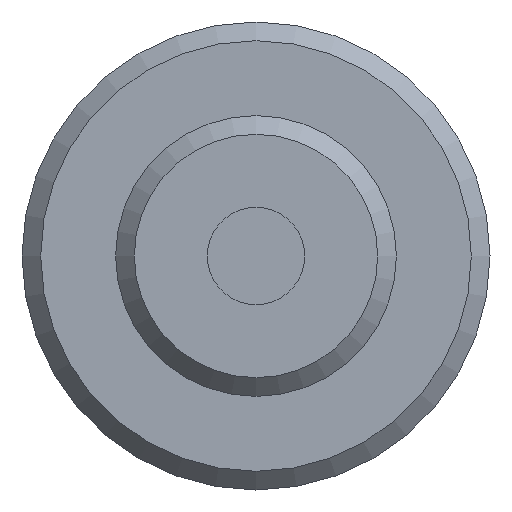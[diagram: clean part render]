
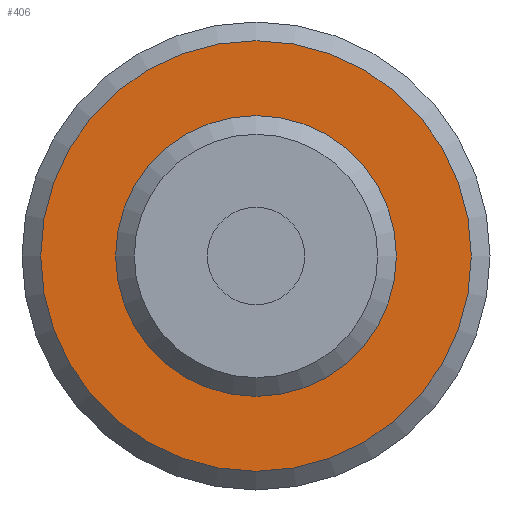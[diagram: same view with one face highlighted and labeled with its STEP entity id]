
A CAD part, front view. The second image highlights one B-rep face of the part: STEP entity #406.
In plain terms, the highlighted planar face has unit normal (0, -1, 0).
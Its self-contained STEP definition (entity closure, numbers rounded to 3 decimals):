
#31=FACE_BOUND('',#117,.T.);
#55=PLANE('',#473);
#79=FACE_OUTER_BOUND('',#116,.T.);
#116=EDGE_LOOP('',(#324));
#117=EDGE_LOOP('',(#325));
#193=CIRCLE('',#472,7.5);
#194=CIRCLE('',#474,11.5);
#224=VERTEX_POINT('',#708);
#225=VERTEX_POINT('',#712);
#260=EDGE_CURVE('',#224,#224,#193,.T.);
#262=EDGE_CURVE('',#225,#225,#194,.T.);
#324=ORIENTED_EDGE('',*,*,#262,.F.);
#325=ORIENTED_EDGE('',*,*,#260,.T.);
#406=ADVANCED_FACE('',(#79,#31),#55,.T.);
#472=AXIS2_PLACEMENT_3D('',#709,#564,#565);
#473=AXIS2_PLACEMENT_3D('',#711,#567,#568);
#474=AXIS2_PLACEMENT_3D('',#713,#569,#570);
#564=DIRECTION('center_axis',(0.,1.,0.));
#565=DIRECTION('ref_axis',(1.,0.,0.));
#567=DIRECTION('center_axis',(0.,-1.,0.));
#568=DIRECTION('ref_axis',(0.,0.,-1.));
#569=DIRECTION('center_axis',(0.,1.,0.));
#570=DIRECTION('ref_axis',(1.,0.,0.));
#708=CARTESIAN_POINT('',(0.,20.,-7.5));
#709=CARTESIAN_POINT('Origin',(0.,20.,0.));
#711=CARTESIAN_POINT('Origin',(0.,20.,11.5));
#712=CARTESIAN_POINT('',(0.,20.,-11.5));
#713=CARTESIAN_POINT('Origin',(0.,20.,0.));
